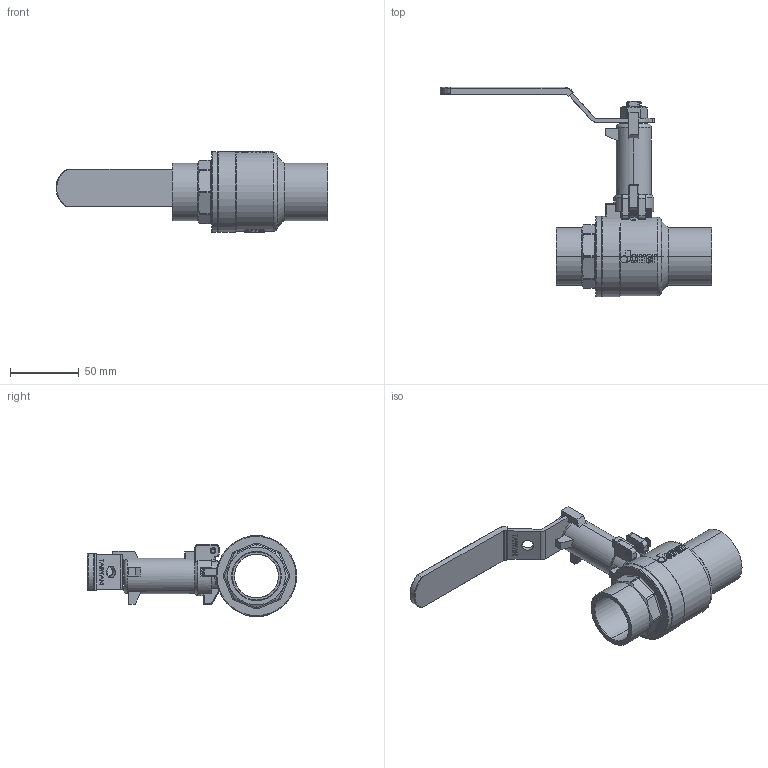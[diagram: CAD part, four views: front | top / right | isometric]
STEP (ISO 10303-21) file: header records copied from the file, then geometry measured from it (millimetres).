
FILE_DESCRIPTION (( 'STEP AP203' ), '1' );
FILE_NAME ('DN32-JOMAR增高套筒估價圖-CxC無掛鎖.STEP', '2024-04-09T08:26:42', ( '' ), ( '' ), 'SwSTEP 2.0', 'SolidWorks 2018', '' );
FILE_SCHEMA (( 'CONFIG_CONTROL_DESIGN' ));
Length unit declared in the file: millimetre
Products named in the file (17): TBL267A (TBL106); DN32-白色膠套-S-200CSSG; EBL306; DN32-CBL716-把手組合-無掛鎖(白色S膠套); EBL706A; DN32-PIPE 2; EBL706; DN32-白鐵中心栓+牙套; NGV109; DN32-牙套; RBL706; SCREW-M4-19L; GBL604; DN32-JOMAR增高套筒估價圖-CxC無掛鎖; BBL716A-1.25''''JOMAR球閥CxC帽蓋-無鉛-端面無插溝; BBL716-1.25''''CxC球閥體-無鉛-端面無插溝; CBL235-1.25''''通用把手
Assembly tree (18 placements, depth 3):
  DN32-JOMAR增高套筒估價圖-CxC無掛鎖
    BBL716-1.25''''CxC球閥體-無鉛-端面無插溝
    TBL267A (TBL106)
    EBL306  x2
    EBL706A
    EBL706
    NGV109
    RBL706
    GBL604
    BBL716A-1.25''''JOMAR球閥CxC帽蓋-無鉛-端面無插溝
    DN32-CBL716-把手組合-無掛鎖(白色S膠套)
      CBL235-1.25''''通用把手
      DN32-白色膠套-S-200CSSG
    DN32-白色膠套-S-200CSSG
    DN32-PIPE 2
    DN32-白鐵中心栓+牙套
    DN32-牙套
    SCREW-M4-19L
Bounding box: 197.9 x 152.36 x 59 mm (x, y, z)
Volume: 167531.7 mm3; surface area: 115188.9 mm2
Topology: 17 solids, 17 shells, 4225 faces, 11424 edges, 7551 vertices
Faces by surface type: plane 2235, bspline 1170, cylinder 652, cone 103, torus 51, sphere 14
Entity records: 180450 total; most frequent: CARTESIAN_POINT 114330, ORIENTED_EDGE 15260, DIRECTION 10432, EDGE_CURVE 7630, VERTEX_POINT 5030, LINE 4154, VECTOR 4154, AXIS2_PLACEMENT_3D 3139
